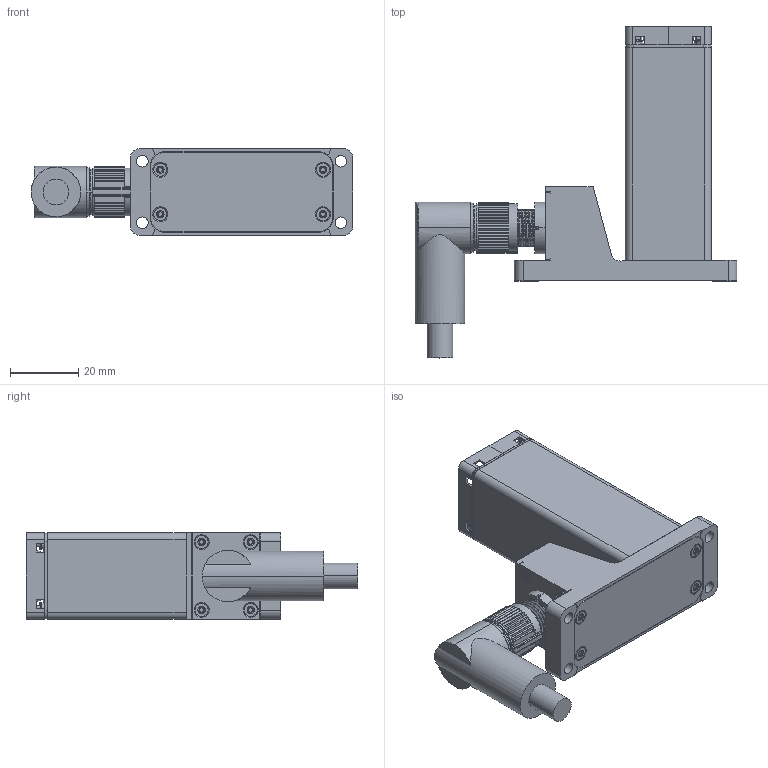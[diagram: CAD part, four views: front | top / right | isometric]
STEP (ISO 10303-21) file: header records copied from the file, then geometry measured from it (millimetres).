
FILE_DESCRIPTION((''),'2;1');
FILE_NAME('D000307829_A','2020-03-12T09:41:47',('scheu-1'),(''),'CREO PARAMETRIC BY PTC INC, 2018260','CREO PARAMETRIC BY PTC INC, 2018260','');
FILE_SCHEMA(('CONFIG_CONTROL_DESIGN'));
Products named in the file (1): D000307829_A
Bounding box: 94 x 96.95 x 25.2 mm (x, y, z)
Volume: 67545.3 mm3; surface area: 21077.2 mm2
Topology: 1 solids, 1 shells, 1143 faces, 2962 edges, 1856 vertices
Faces by surface type: cylinder 441, plane 397, bspline 132, cone 102, torus 53, sphere 18
Entity records: 61687 total; most frequent: CARTESIAN_POINT 34475, ORIENTED_EDGE 5920, DIRECTION 5381, EDGE_CURVE 2960, AXIS2_PLACEMENT_3D 2072, VERTEX_POINT 1856, EDGE_LOOP 1268, VECTOR 1237
